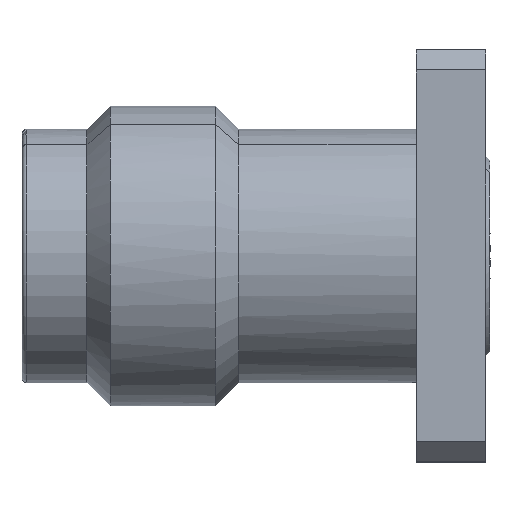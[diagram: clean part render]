
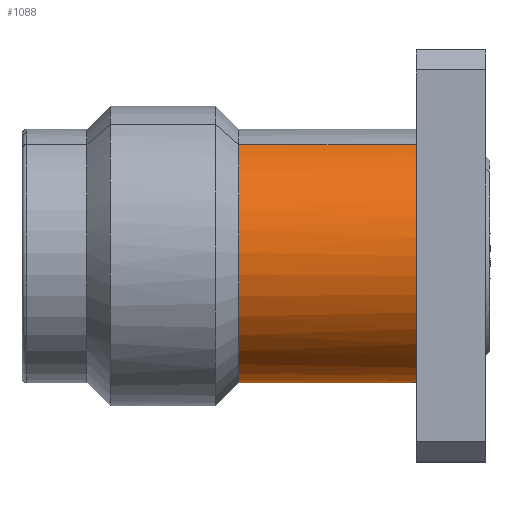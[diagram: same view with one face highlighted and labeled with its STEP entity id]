
A CAD part, top view. The second image highlights one B-rep face of the part: STEP entity #1088.
In plain terms, the highlighted cylindrical face has radius 2.925 mm (diameter 5.85 mm), a partial arc.
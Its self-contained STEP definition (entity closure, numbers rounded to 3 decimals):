
#441=CARTESIAN_POINT('Control Point',(9.1,2.567,1.402)) ;
#442=CARTESIAN_POINT('Control Point',(9.1,2.406,1.696)) ;
#443=CARTESIAN_POINT('Control Point',(9.1,2.203,1.968)) ;
#444=CARTESIAN_POINT('Control Point',(9.1,1.963,2.208)) ;
#445=CARTESIAN_POINT('Control Point',(9.1,1.42,2.612)) ;
#446=CARTESIAN_POINT('Control Point',(9.1,0.785,2.848)) ;
#447=CARTESIAN_POINT('Control Point',(9.1,0.453,2.919)) ;
#448=CARTESIAN_POINT('Control Point',(9.1,-0.223,2.965)) ;
#449=CARTESIAN_POINT('Control Point',(9.1,-0.884,2.819)) ;
#450=CARTESIAN_POINT('Control Point',(9.1,-1.202,2.699)) ;
#451=CARTESIAN_POINT('Control Point',(9.1,-1.794,2.371)) ;
#452=CARTESIAN_POINT('Control Point',(9.1,-2.271,1.89)) ;
#453=CARTESIAN_POINT('Control Point',(9.1,-2.473,1.616)) ;
#454=CARTESIAN_POINT('Control Point',(9.1,-2.793,1.02)) ;
#455=CARTESIAN_POINT('Control Point',(9.1,-2.932,0.357)) ;
#456=CARTESIAN_POINT('Control Point',(9.1,-2.954,0.018)) ;
#457=CARTESIAN_POINT('Control Point',(9.1,-2.914,-0.483)) ;
#458=CARTESIAN_POINT('Control Point',(9.1,-2.77,-0.96)) ;
#459=CARTESIAN_POINT('Control Point',(9.1,-2.713,-1.112)) ;
#460=CARTESIAN_POINT('Control Point',(9.1,-2.645,-1.26)) ;
#461=CARTESIAN_POINT('Control Point',(9.1,-2.567,-1.402)) ;
#462=CARTESIAN_POINT('Vertex',(9.1,2.567,1.402)) ;
#464=CARTESIAN_POINT('Vertex',(9.1,-2.567,-1.402)) ;
#1058=CARTESIAN_POINT('Axis2P3D Location',(7.356,0.,0.)) ;
#1063=CARTESIAN_POINT('Line Origine',(7.356,-2.567,-1.402)) ;
#1067=CARTESIAN_POINT('Vertex',(5.,-2.567,-1.402)) ;
#1070=CARTESIAN_POINT('Line Origine',(7.356,2.567,1.402)) ;
#1074=CARTESIAN_POINT('Vertex',(5.,2.567,1.402)) ;
#1077=CARTESIAN_POINT('Axis2P3D Location',(5.,0.,0.)) ;
#1059=DIRECTION('Axis2P3D Direction',(1.,0.,0.)) ;
#1060=DIRECTION('Axis2P3D XDirection',(0.,0.878,0.479)) ;
#1064=DIRECTION('Vector Direction',(1.,0.,0.)) ;
#1071=DIRECTION('Vector Direction',(1.,0.,0.)) ;
#1078=DIRECTION('Axis2P3D Direction',(1.,0.,0.)) ;
#1061=AXIS2_PLACEMENT_3D('Cylinder Axis2P3D',#1058,#1059,#1060) ;
#1079=AXIS2_PLACEMENT_3D('Circle Axis2P3D',#1077,#1078,$) ;
#1083=ORIENTED_EDGE('',*,*,#1069,.T.) ;
#1084=ORIENTED_EDGE('',*,*,#466,.F.) ;
#1085=ORIENTED_EDGE('',*,*,#1076,.F.) ;
#1086=ORIENTED_EDGE('',*,*,#1081,.T.) ;
#1065=VECTOR('Line Direction',#1064,1.) ;
#1072=VECTOR('Line Direction',#1071,1.) ;
#1088=ADVANCED_FACE('',(#1087),#1062,.T.) ;
#440=B_SPLINE_CURVE_WITH_KNOTS('',5,(#441,#442,#443,#444,#445,#446,#447,#448,#449,#450,#451,#452,#453,#454,#455,#456,#457,#458,#459,#460,#461),.UNSPECIFIED.,.F.,.U.,(6,3,3,3,3,3,6),(0.,2.37,4.74,7.109,9.479,11.849,12.995),.UNSPECIFIED.) ;
#1080=CIRCLE('generated circle',#1079,2.925) ;
#1062=CYLINDRICAL_SURFACE('generated cylinder',#1061,2.925) ;
#466=EDGE_CURVE('',#463,#465,#440,.T.) ;
#1069=EDGE_CURVE('',#1068,#465,#1066,.T.) ;
#1076=EDGE_CURVE('',#1075,#463,#1073,.T.) ;
#1081=EDGE_CURVE('',#1075,#1068,#1080,.T.) ;
#1082=EDGE_LOOP('',(#1083,#1084,#1085,#1086)) ;
#1087=FACE_OUTER_BOUND('',#1082,.T.) ;
#1066=LINE('Line',#1063,#1065) ;
#1073=LINE('Line',#1070,#1072) ;
#463=VERTEX_POINT('',#462) ;
#465=VERTEX_POINT('',#464) ;
#1068=VERTEX_POINT('',#1067) ;
#1075=VERTEX_POINT('',#1074) ;
